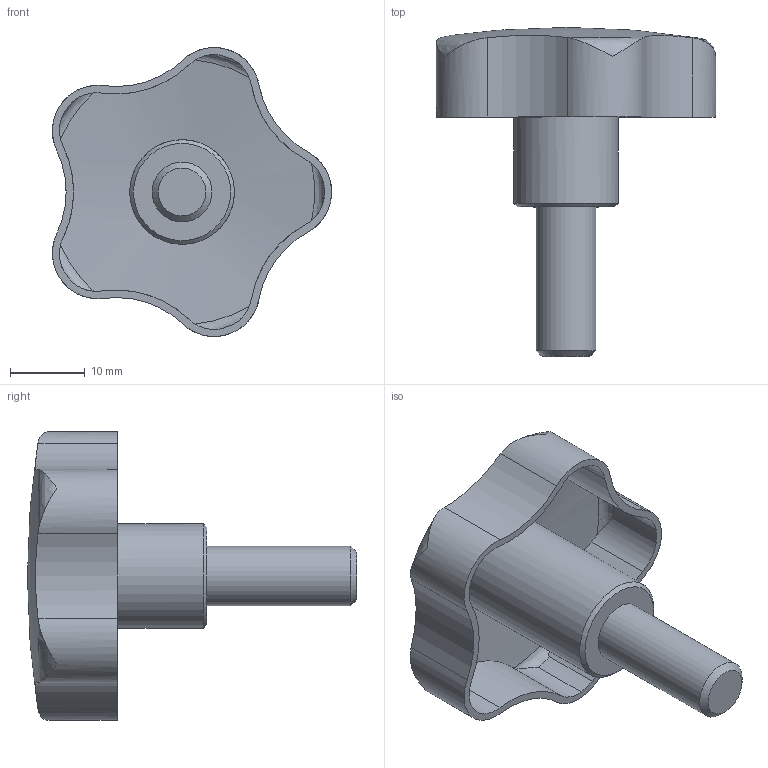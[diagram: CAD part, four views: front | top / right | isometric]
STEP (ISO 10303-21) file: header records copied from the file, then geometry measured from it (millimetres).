
FILE_DESCRIPTION( ( 'STEP AP203' ), '1' );
FILE_NAME( 'C:/Temp/Ganter_Step_05_03_2020/data/2_2/gn_5334_4/gn5334_4_2/Stainless Steel-Star knob with threaded bolt AISI 316L (A4) GN 5334.4-40-M8-20.stp', '2020-03-05T12:08:32', ( 'License CC BY-ND 4.0' ), ( 'CADENAS' ), ' ', 'PARTsolutions', ' ' );
FILE_SCHEMA( ( 'CONFIG_CONTROL_DESIGN' ) );
Length unit declared in the file: millimetre
Products named in the file (1): _Stainless Steel-Star knob with threaded bolt AISI 316L (A4) GN 5334.4-40-M8-20
Bounding box: 37.34 x 44 x 38.63 mm (x, y, z)
Volume: 6624.6 mm3; surface area: 5868 mm2
Topology: 1 solids, 1 shells, 49 faces, 140 edges, 94 vertices
Faces by surface type: cylinder 32, torus 10, plane 3, sphere 2, cone 2
Full cylindrical faces by diameter (mm): 8 x1, 14 x1
Entity records: 1978 total; most frequent: CARTESIAN_POINT 739, ORIENTED_EDGE 262, DIRECTION 232, EDGE_CURVE 131, AXIS2_PLACEMENT_3D 101, VERTEX_POINT 92, EDGE_LOOP 56, FACE_OUTER_BOUND 52
